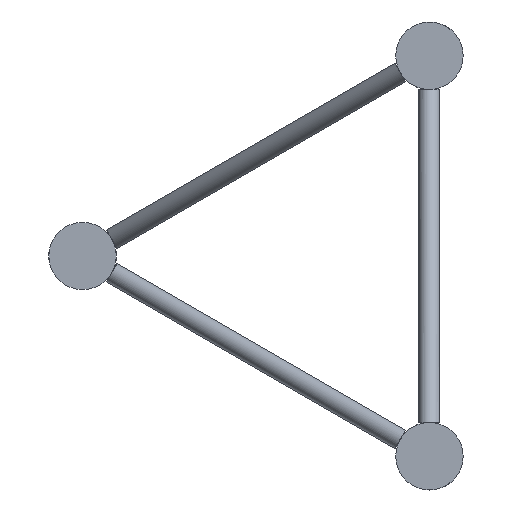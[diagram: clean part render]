
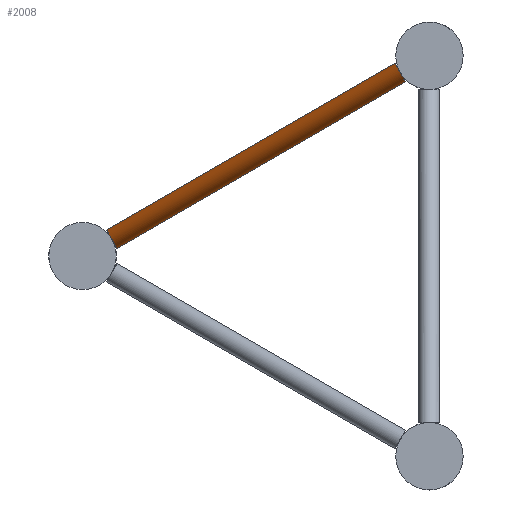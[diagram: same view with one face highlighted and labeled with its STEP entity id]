
A CAD part, left-side view. The second image highlights one B-rep face of the part: STEP entity #2008.
In plain terms, the highlighted cylindrical face has radius 5 mm (diameter 10 mm), a full revolution.
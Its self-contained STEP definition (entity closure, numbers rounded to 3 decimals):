
#75=FACE_BOUND('',#422,.T.);
#155=CIRCLE('',#2252,4.764);
#156=CIRCLE('',#2255,4.764);
#184=CYLINDRICAL_SURFACE('',#2251,5.);
#279=FACE_OUTER_BOUND('',#421,.T.);
#421=EDGE_LOOP('',(#1543,#1544,#1545,#1546));
#422=EDGE_LOOP('',(#1547,#1548,#1549,#1550));
#507=ELLIPSE('',#2075,6.104,5.);
#508=ELLIPSE('',#2077,6.104,5.);
#583=ELLIPSE('',#2248,6.104,5.);
#584=ELLIPSE('',#2250,6.104,5.);
#585=ELLIPSE('',#2253,8.883,5.491);
#586=ELLIPSE('',#2254,8.883,5.491);
#799=VERTEX_POINT('',#2975);
#800=VERTEX_POINT('',#2976);
#801=VERTEX_POINT('',#2980);
#802=VERTEX_POINT('',#2981);
#913=VERTEX_POINT('',#3462);
#914=VERTEX_POINT('',#3463);
#915=VERTEX_POINT('',#3467);
#916=VERTEX_POINT('',#3468);
#998=EDGE_CURVE('',#799,#800,#507,.T.);
#1000=EDGE_CURVE('',#801,#802,#508,.T.);
#1164=EDGE_CURVE('',#913,#914,#583,.T.);
#1166=EDGE_CURVE('',#915,#916,#584,.T.);
#1167=EDGE_CURVE('',#800,#801,#155,.T.);
#1168=EDGE_CURVE('',#802,#799,#585,.T.);
#1169=EDGE_CURVE('',#914,#915,#586,.T.);
#1170=EDGE_CURVE('',#916,#913,#156,.T.);
#1543=ORIENTED_EDGE('',*,*,#1167,.T.);
#1544=ORIENTED_EDGE('',*,*,#1000,.T.);
#1545=ORIENTED_EDGE('',*,*,#1168,.T.);
#1546=ORIENTED_EDGE('',*,*,#998,.T.);
#1547=ORIENTED_EDGE('',*,*,#1169,.T.);
#1548=ORIENTED_EDGE('',*,*,#1166,.T.);
#1549=ORIENTED_EDGE('',*,*,#1170,.T.);
#1550=ORIENTED_EDGE('',*,*,#1164,.T.);
#2008=ADVANCED_FACE('',(#279,#75),#184,.T.);
#2075=AXIS2_PLACEMENT_3D('',#2978,#2382,#2383);
#2077=AXIS2_PLACEMENT_3D('',#2983,#2387,#2388);
#2248=AXIS2_PLACEMENT_3D('',#3465,#2780,#2781);
#2250=AXIS2_PLACEMENT_3D('',#3470,#2785,#2786);
#2251=AXIS2_PLACEMENT_3D('',#3471,#2787,#2788);
#2252=AXIS2_PLACEMENT_3D('',#3472,#2789,#2790);
#2253=AXIS2_PLACEMENT_3D('',#3473,#2791,#2792);
#2254=AXIS2_PLACEMENT_3D('',#3474,#2793,#2794);
#2255=AXIS2_PLACEMENT_3D('',#3475,#2795,#2796);
#2382=DIRECTION('center_axis',(0.,0.866,-0.5));
#2383=DIRECTION('ref_axis',(-1.,0.,0.));
#2387=DIRECTION('center_axis',(0.,0.866,-0.5));
#2388=DIRECTION('ref_axis',(-1.,0.,0.));
#2780=DIRECTION('center_axis',(0.,-0.866,
0.5));
#2781=DIRECTION('ref_axis',(-1.,0.,0.));
#2785=DIRECTION('center_axis',(0.,-0.866,
0.5));
#2786=DIRECTION('ref_axis',(-1.,0.,0.));
#2787=DIRECTION('center_axis',(-0.574,-0.709,0.41));
#2788=DIRECTION('ref_axis',(-0.819,0.497,-0.287));
#2789=DIRECTION('center_axis',(0.297,0.827,-0.477));
#2790=DIRECTION('ref_axis',(-0.95,0.306,-0.06));
#2791=DIRECTION('center_axis',(-0.212,0.846,-0.489));
#2792=DIRECTION('ref_axis',(0.977,0.183,-0.106));
#2793=DIRECTION('center_axis',(0.212,-0.846,0.489));
#2794=DIRECTION('ref_axis',(0.977,0.183,-0.106));
#2795=DIRECTION('center_axis',(-0.297,-0.827,0.477));
#2796=DIRECTION('ref_axis',(0.95,-0.206,0.235));
#2975=CARTESIAN_POINT('',(85.454,13.61,-8.412));
#2976=CARTESIAN_POINT('',(73.303,13.61,-8.412));
#2978=CARTESIAN_POINT('Origin',(79.378,13.85,-7.996));
#2980=CARTESIAN_POINT('',(73.303,14.09,-7.58));
#2981=CARTESIAN_POINT('',(85.454,14.09,-7.58));
#2983=CARTESIAN_POINT('Origin',(79.378,13.85,-7.996));
#3462=CARTESIAN_POINT('',(196.097,150.935,-86.588));
#3463=CARTESIAN_POINT('',(183.946,150.935,-86.588));
#3465=CARTESIAN_POINT('Origin',(190.021,150.695,-87.004));
#3467=CARTESIAN_POINT('',(183.946,150.454,-87.42));
#3468=CARTESIAN_POINT('',(196.097,150.454,-87.42));
#3470=CARTESIAN_POINT('Origin',(190.021,150.695,-87.004));
#3471=CARTESIAN_POINT('Origin',(134.7,82.272,-47.5));
#3472=CARTESIAN_POINT('Origin',(77.828,12.631,-7.292));
#3473=CARTESIAN_POINT('Origin',(76.806,12.227,-7.059));
#3474=CARTESIAN_POINT('Origin',(192.594,152.318,-87.941));
#3475=CARTESIAN_POINT('Origin',(191.571,151.914,-87.708));
